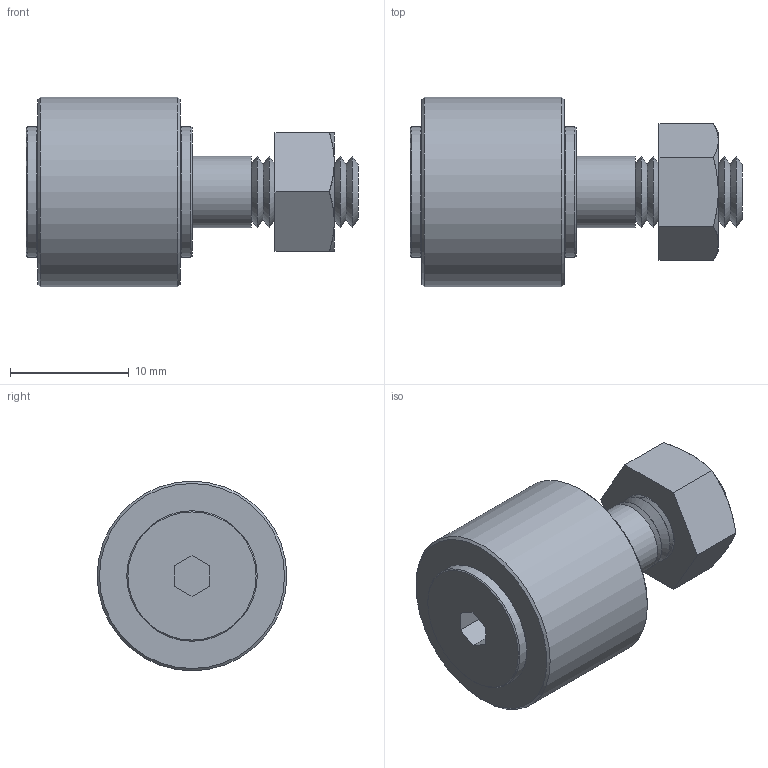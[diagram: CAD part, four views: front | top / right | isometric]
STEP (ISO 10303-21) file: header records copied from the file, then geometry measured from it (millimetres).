
FILE_DESCRIPTION((''),'1');
FILE_NAME('C:/Users/t-inoue/Desktop/IMCF-6C.stp','2016-05-20T07:02:57',(''),(''),'Spatial Interop R21 SP3','Kubotek KeyCreator 2011 V10.0.2 (22737)',' ');
FILE_SCHEMA(('automotive_design'));
Length unit declared in the file: millimetre
Products named in the file (48): Unnamed[1]
Bounding box: 28 x 16 x 16 mm (x, y, z)
Surface area: 1625.3 mm2 (no closed solid volume)
Topology: 0 solids, 48 shells, 48 faces, 169 edges, 148 vertices
Faces by surface type: cone 23, plane 21, cylinder 4
Full cylindrical faces by diameter (mm): 6 x1, 11 x2, 16 x1
Entity records: 3706 total; most frequent: CARTESIAN_POINT 434, DIRECTION 374, PRESENTATION_STYLE_ASSIGNMENT 192, COLOUR_RGB 192, AXIS2_PLACEMENT_3D 157, ORIENTED_EDGE 145, EDGE_CURVE 145, VERTEX_POINT 145
